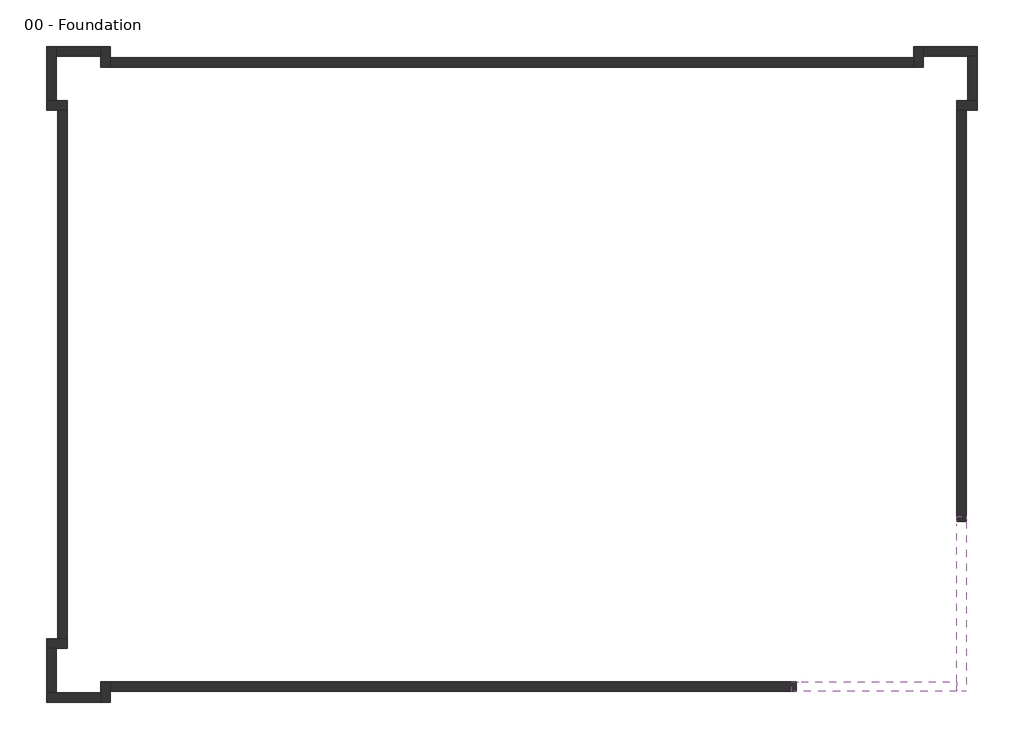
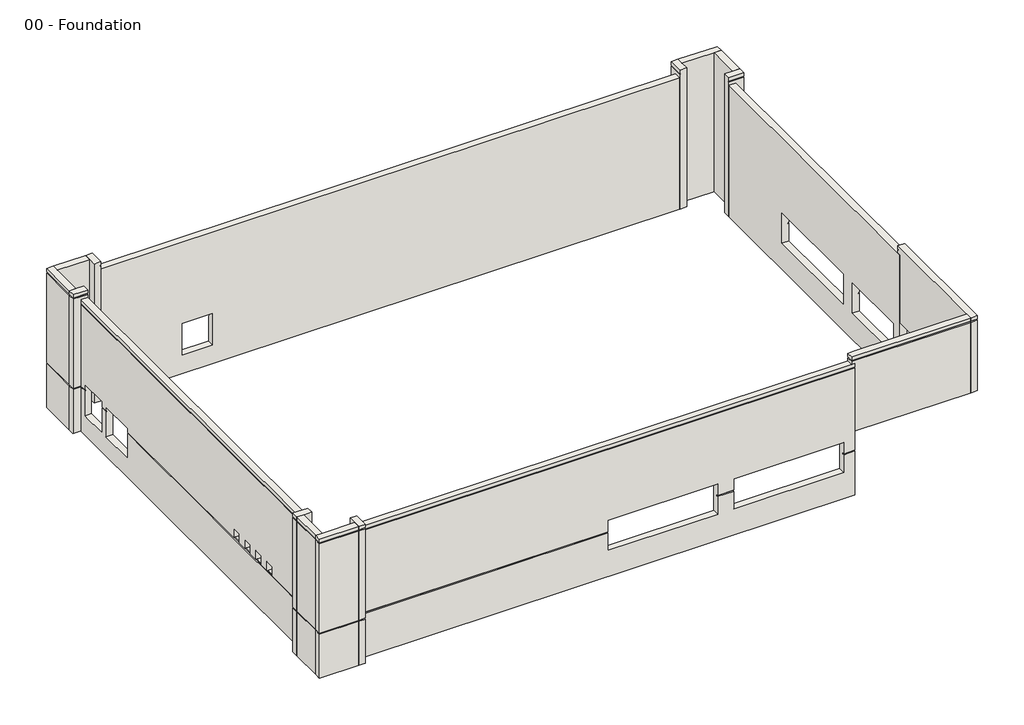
# One storey: 18 walls.
"""IFC4 building model written with IfcOpenShell, lengths in millimetres."""

from ifc_helpers import new_model, si_unit, frame, origin, place, context, project, spatial, polyline, outline, extrude, faceted_brep, element, save

model = new_model("IFC4")

# Units and contexts
model_context = context("Model", 3, world=origin())
ifc_project = project(units=[si_unit("LENGTHUNIT", "METRE", prefix="MILLI")], contexts=[model_context])

# Site, building, storey
site = spatial("IfcSite", under=ifc_project)
building = spatial("IfcBuilding", under=site)
storey = spatial("IfcBuildingStorey", under=building, Name="00 - Foundation", Elevation=-1250.0)

# Walls
placement = place(None, origin())
element("IfcWall", 1, ObjectType="Exterior - Render on Brick on Block @ Entry", at=placement, inside=storey, context=model_context, shape_type="Brep", body=[
    faceted_brep([(18351.5272279, -6696.4313057, 3000.0), (18351.5272279, -13977.9313057, 3000.0), (18351.5272279, -14406.9313057, 3000.0), (18351.5272279, -14406.9313057, 7700.0), (18351.5272279, -14331.9313057, 7700.0), (18351.5272279, -14331.9313057, 7775.0), (18351.5272279, -14406.9313057, 7775.0), (18351.5272279, -14406.9313057, 8000.0), (18351.5272279, -13977.9313057, 8000.0), (18351.5272279, -6910.9313057, 8000.0), (18351.5272279, -6481.9313057, 8000.0), (18351.5272279, -6481.9313057, 7775.0), (18351.5272279, -6556.9313057, 7775.0), (18351.5272279, -6556.9313057, 7700.0), (18351.5272279, -6481.9313057, 7700.0), (18351.5272279, -6481.9313057, 7500.0), (18351.5272279, -6696.4313057, 7500.0), (18780.5272279, -14406.9313057, 3000.0), (18780.5272279, -6696.4313057, 3000.0), (18780.5272279, -6696.4313057, 7200.0), (18780.5272279, -6696.4313057, 7275.0), (18780.5272279, -6696.4313057, 7500.0), (18780.5272279, -6481.9313057, 7500.0), (18780.5272279, -6481.9313057, 7700.0), (18780.5272279, -14406.9313057, 7700.0), (18780.5272279, -6481.9313057, 8000.0), (18780.5272279, -14406.9313057, 8000.0), (18780.5272279, -14406.9313057, 7775.0), (18780.5272279, -6481.9313057, 7775.0), (18705.5272279, -6556.9313057, 7700.0), (18705.5272279, -6556.9313057, 7775.0), (18705.5272279, -14331.9313057, 7775.0), (18705.5272279, -14331.9313057, 7700.0)], [[[0, 1, 2, 3, 4, 5, 6, 7, 8, 9, 10, 11, 12, 13, 14, 15, 16]], [[17, 18, 19, 20, 21, 22, 23, 24]], [[25, 26, 27, 28]], [[2, 1, 0, 18, 17]], [[10, 9, 8, 7, 26, 25]], [[29, 30, 31, 32]], [[2, 17, 24, 3]], [[26, 7, 6, 27]], [[31, 30, 12, 11, 28, 27, 6, 5]], [[29, 32, 4, 3, 24, 23, 14, 13]], [[30, 29, 13, 12]], [[32, 31, 5, 4]], [[18, 0, 16, 21, 20, 19]], [[22, 21, 16, 15]], [[10, 25, 28, 11]], [[22, 15, 14, 23]]]),
])
element("IfcWall", 2, ObjectType="Exterior - Render on Brick on Block @ Entry", at=placement, inside=storey, context=model_context, shape_type="Brep", body=[
    faceted_brep([(18351.5272279, -13977.9313057, 3000.0), (11070.0272279, -13977.9313057, 3000.0), (11070.0272279, -13977.9313057, 7500.0), (10855.5272279, -13977.9313057, 7500.0), (10855.5272279, -13977.9313057, 7700.0), (10930.5272279, -13977.9313057, 7700.0), (10930.5272279, -13977.9313057, 7775.0), (10855.5272279, -13977.9313057, 7775.0), (10855.5272279, -13977.9313057, 8000.0), (11284.5272279, -13977.9313057, 8000.0), (18351.5272279, -13977.9313057, 8000.0), (11070.0272279, -14406.9313057, 3000.0), (18351.5272279, -14406.9313057, 3000.0), (18351.5272279, -14406.9313057, 7700.0), (10855.5272279, -14406.9313057, 7700.0), (10855.5272279, -14406.9313057, 7500.0), (11070.0272279, -14406.9313057, 7500.0), (11070.0272279, -14406.9313057, 7275.0), (11070.0272279, -14406.9313057, 7200.0), (18351.5272279, -14406.9313057, 8000.0), (10855.5272279, -14406.9313057, 8000.0), (10855.5272279, -14406.9313057, 7775.0), (18351.5272279, -14406.9313057, 7775.0), (18351.5272279, -14331.9313057, 7700.0), (18351.5272279, -14331.9313057, 7775.0), (10930.5272279, -14331.9313057, 7775.0), (10930.5272279, -14331.9313057, 7700.0)], [[[0, 1, 2, 3, 4, 5, 6, 7, 8, 9, 10]], [[11, 12, 13, 14, 15, 16, 17, 18]], [[19, 20, 21, 22]], [[1, 0, 12, 11]], [[10, 9, 8, 20, 19]], [[23, 24, 25, 26]], [[0, 10, 19, 22, 24, 23, 13, 12]], [[22, 21, 7, 6, 25, 24]], [[14, 13, 23, 26, 5, 4]], [[1, 11, 18, 17, 16, 2]], [[3, 2, 16, 15]], [[3, 15, 14, 4]], [[20, 8, 7, 21]], [[26, 25, 6, 5]]]),
])
element("IfcWall", 3, ObjectType="Exterior - Render on Brick on Block", at=placement, inside=storey, context=model_context, shape_type="Brep", body=[
    faceted_brep([(11070.0272279, -13977.9313057, -1250.0), (-20031.4727721, -13977.9313057, -1250.0), (-20031.4727721, -13977.9313057, 7500.0), (10855.5272279, -13977.9313057, 7500.0), (11070.0272279, -13977.9313057, 7500.0), (11070.0272279, -13977.9313057, 3000.0), (-4494.4727721, -13977.9313057, 2500.0), (-4494.4727721, -13977.9313057, 500.0), (2430.5272279, -13977.9313057, 500.0), (2430.5272279, -13977.9313057, 2500.0), (10355.5272279, -13977.9313057, 500.0), (10355.5272279, -13977.9313057, 2500.0), (3430.5272279, -13977.9313057, 2500.0), (3430.5272279, -13977.9313057, 500.0), (11070.0272279, -14406.9313057, 7500.0), (-20031.4727721, -14406.9313057, 7500.0), (-20031.4727721, -14406.9313057, 7275.0), (11070.0272279, -14406.9313057, 7275.0), (-20031.4727721, -14406.9313057, -1250.0), (11070.0272279, -14406.9313057, -1250.0), (11070.0272279, -14406.9313057, 1675.0), (10355.5272279, -14406.9313057, 1675.0), (10355.5272279, -14406.9313057, 500.0), (3430.5272279, -14406.9313057, 500.0), (3430.5272279, -14406.9313057, 1675.0), (2430.5272279, -14406.9313057, 1675.0), (2430.5272279, -14406.9313057, 500.0), (-4494.4727721, -14406.9313057, 500.0), (-4494.4727721, -14406.9313057, 1675.0), (-20031.4727721, -14406.9313057, 1675.0), (-20031.4727721, -14406.9313057, 1750.0), (-4494.4727721, -14406.9313057, 1750.0), (-4494.4727721, -14406.9313057, 2500.0), (2430.5272279, -14406.9313057, 2500.0), (2430.5272279, -14406.9313057, 1750.0), (3430.5272279, -14406.9313057, 1750.0), (3430.5272279, -14406.9313057, 2500.0), (10355.5272279, -14406.9313057, 2500.0), (10355.5272279, -14406.9313057, 1750.0), (11070.0272279, -14406.9313057, 1750.0), (11070.0272279, -14406.9313057, 7200.0), (-20031.4727721, -14406.9313057, 7200.0), (11070.0272279, -14331.9313057, 7275.0), (11070.0272279, -14331.9313057, 7200.0), (11070.0272279, -14331.9313057, 1750.0), (11070.0272279, -14331.9313057, 1675.0), (11070.0272279, -14381.9313057, -1250.0), (-20031.4727721, -14381.9313057, -1250.0), (-20031.4727721, -14331.9313057, 1750.0), (-4494.4727721, -14331.9313057, 1750.0), (-4494.4727721, -14331.9313057, 1675.0), (-20031.4727721, -14331.9313057, 1675.0), (-20031.4727721, -14331.9313057, 7275.0), (-20031.4727721, -14331.9313057, 7200.0), (2430.5272279, -14331.9313057, 1675.0), (2430.5272279, -14331.9313057, 1750.0), (3430.5272279, -14331.9313057, 1750.0), (3430.5272279, -14331.9313057, 1675.0), (10355.5272279, -14331.9313057, 1675.0), (10355.5272279, -14331.9313057, 1750.0)], [[[0, 1, 2, 3, 4, 5], [6, 7, 8, 9], [10, 11, 12, 13]], [[14, 15, 16, 17]], [[18, 19, 20, 21, 22, 23, 24, 25, 26, 27, 28, 29]], [[30, 31, 32, 33, 34, 35, 36, 37, 38, 39, 40, 41]], [[4, 3, 2, 15, 14]], [[0, 5, 4, 14, 17, 42, 43, 40, 39, 44, 45, 20, 19, 46]], [[1, 0, 46, 47]], [[46, 19, 18, 47]], [[31, 30, 48, 49]], [[29, 28, 50, 51]], [[49, 48, 51, 50]], [[52, 42, 17, 16]], [[43, 53, 41, 40]], [[42, 52, 53, 43]], [[2, 1, 47, 18, 29, 51, 48, 30, 41, 53, 52, 16, 15]], [[27, 7, 6, 32, 31, 49, 50, 28]], [[32, 6, 9, 33]], [[33, 9, 8, 26, 25, 54, 55, 34]], [[7, 27, 26, 8]], [[55, 56, 35, 34]], [[57, 54, 25, 24]], [[56, 55, 54, 57]], [[10, 22, 21, 58, 59, 38, 37, 11]], [[11, 37, 36, 12]], [[12, 36, 35, 56, 57, 24, 23, 13]], [[22, 10, 13, 23]], [[59, 44, 39, 38]], [[45, 58, 21, 20]], [[44, 59, 58, 45]]]),
])
element("IfcWall", 4, ObjectType="Exterior - Render on Brick on Block", at=placement, inside=storey, context=model_context, shape_type="Brep", body=[
    faceted_brep([(-20460.4727721, -13977.9313057, -1250.0), (-20460.4727721, -14477.7313057, -1250.0), (-20460.4727721, -14906.7313057, -1250.0), (-20460.4727721, -14906.7313057, 1675.0), (-20460.4727721, -14831.7313057, 1675.0), (-20460.4727721, -14831.7313057, 1750.0), (-20460.4727721, -14906.7313057, 1750.0), (-20460.4727721, -14906.7313057, 7700.0), (-20460.4727721, -14831.7313057, 7700.0), (-20460.4727721, -14831.7313057, 7775.0), (-20460.4727721, -14906.7313057, 7775.0), (-20460.4727721, -14906.7313057, 8000.0), (-20460.4727721, -14477.7313057, 8000.0), (-20460.4727721, -13977.9313057, 8000.0), (-20031.4727721, -13977.9313057, 8000.0), (-20031.4727721, -14906.7313057, 8000.0), (-20031.4727721, -14906.7313057, 7775.0), (-20031.4727721, -13977.9313057, 7775.0), (-20031.4727721, -14906.7313057, -1250.0), (-20031.4727721, -14406.9313057, -1250.0), (-20031.4727721, -13977.9313057, -1250.0), (-20031.4727721, -13977.9313057, 7500.0), (-20031.4727721, -13977.9313057, 7700.0), (-20031.4727721, -14906.7313057, 7700.0), (-20031.4727721, -14906.7313057, 1750.0), (-20031.4727721, -14406.9313057, 1750.0), (-20031.4727721, -14331.9313057, 1750.0), (-20031.4727721, -14331.9313057, 1675.0), (-20031.4727721, -14406.9313057, 1675.0), (-20031.4727721, -14906.7313057, 1675.0), (-20056.4727721, -13977.9313057, -1250.0), (-20056.4727721, -14906.7313057, -1250.0), (-20106.4727721, -14331.9313057, 1675.0), (-20106.4727721, -14331.9313057, 1750.0), (-20106.4727721, -14831.7313057, 1750.0), (-20106.4727721, -14831.7313057, 1675.0), (-20106.4727721, -14831.7313057, 7775.0), (-20106.4727721, -13977.9313057, 7775.0), (-20106.4727721, -13977.9313057, 7700.0), (-20106.4727721, -14831.7313057, 7700.0)], [[[0, 1, 2, 3, 4, 5, 6, 7, 8, 9, 10, 11, 12, 13]], [[14, 15, 16, 17]], [[18, 19, 20, 21, 22, 23, 24, 25, 26, 27, 28, 29]], [[13, 12, 11, 15, 14]], [[2, 1, 0, 30, 31]], [[32, 33, 34, 35]], [[36, 37, 17, 16, 10, 9]], [[38, 39, 8, 7, 23, 22]], [[37, 36, 39, 38]], [[0, 13, 14, 17, 37, 38, 22, 21, 20, 30]], [[20, 19, 18, 31, 30]], [[34, 33, 26, 25, 24, 6, 5]], [[32, 35, 4, 3, 29, 28, 27]], [[33, 32, 27, 26]], [[15, 11, 10, 16]], [[2, 31, 18, 29, 3]], [[6, 24, 23, 7]], [[35, 34, 5, 4]], [[39, 36, 9, 8]]]),
])
element("IfcWall", 5, ObjectType="Exterior - Render on Brick on Block", at=placement, inside=storey, context=model_context, shape_type="Brep", body=[
    faceted_brep([(-20460.4727721, -14477.7313057, -1250.0), (-22490.4727721, -14477.7313057, -1250.0), (-22919.4727721, -14477.7313057, -1250.0), (-22919.4727721, -14477.7313057, 1675.0), (-22844.4727721, -14477.7313057, 1675.0), (-22844.4727721, -14477.7313057, 1750.0), (-22919.4727721, -14477.7313057, 1750.0), (-22919.4727721, -14477.7313057, 7700.0), (-22844.4727721, -14477.7313057, 7700.0), (-22844.4727721, -14477.7313057, 7775.0), (-22919.4727721, -14477.7313057, 7775.0), (-22919.4727721, -14477.7313057, 8000.0), (-22490.4727721, -14477.7313057, 8000.0), (-20460.4727721, -14477.7313057, 8000.0), (-20460.4727721, -14906.7313057, 8000.0), (-22919.4727721, -14906.7313057, 8000.0), (-22919.4727721, -14906.7313057, 7775.0), (-20460.4727721, -14906.7313057, 7775.0), (-22919.4727721, -14906.7313057, -1250.0), (-20460.4727721, -14906.7313057, -1250.0), (-20460.4727721, -14906.7313057, 1675.0), (-22919.4727721, -14906.7313057, 1675.0), (-22919.4727721, -14906.7313057, 1750.0), (-20460.4727721, -14906.7313057, 1750.0), (-20460.4727721, -14906.7313057, 7700.0), (-22919.4727721, -14906.7313057, 7700.0), (-20460.4727721, -14881.7313057, -1250.0), (-22919.4727721, -14881.7313057, -1250.0), (-22844.4727721, -14831.7313057, 1675.0), (-20460.4727721, -14831.7313057, 1675.0), (-20460.4727721, -14831.7313057, 1750.0), (-22844.4727721, -14831.7313057, 1750.0), (-22844.4727721, -14831.7313057, 7775.0), (-22844.4727721, -14831.7313057, 7700.0), (-20460.4727721, -14831.7313057, 7700.0), (-20460.4727721, -14831.7313057, 7775.0)], [[[0, 1, 2, 3, 4, 5, 6, 7, 8, 9, 10, 11, 12, 13]], [[14, 15, 16, 17]], [[18, 19, 20, 21]], [[22, 23, 24, 25]], [[13, 12, 11, 15, 14]], [[2, 1, 0, 26, 27]], [[28, 29, 30, 31]], [[32, 33, 34, 35]], [[0, 13, 14, 17, 35, 34, 24, 23, 30, 29, 20, 19, 26]], [[19, 18, 27, 26]], [[31, 30, 23, 22, 6, 5]], [[29, 28, 4, 3, 21, 20]], [[9, 32, 35, 17, 16, 10]], [[34, 33, 8, 7, 25, 24]], [[15, 11, 10, 16]], [[2, 27, 18, 21, 3]], [[6, 22, 25, 7]], [[28, 31, 5, 4]], [[33, 32, 9, 8]]]),
])
element("IfcWall", 6, ObjectType="Exterior - Render on Brick on Block", at=placement, inside=storey, context=model_context, shape_type="SweptSolid", body=[
    extrude(outline(polyline([(-1250.0, -22490.4727721), (8000.0, -22490.4727721), (8000.0, -22919.4727721), (7775.0, -22919.4727721), (7775.0, -22844.4727721), (7700.0, -22844.4727721), (7700.0, -22919.4727721), (1750.0, -22919.4727721), (1750.0, -22844.4727721), (1675.0, -22844.4727721), (1675.0, -22919.4727721), (-1250.0, -22919.4727721), (-1250.0, -22894.4727721), (-1250.0, -22490.4727721)])), frame((0.0, -14477.7313057, 0.0), z_axis=(0.0, 1.0, 0.0), x_axis=(0.0, 0.0, 1.0)), (0.0, 0.0, 1.0), 2030.0),
])
element("IfcWall", 7, ObjectType="Exterior - Render on Brick on Block", at=placement, inside=storey, context=model_context, shape_type="Brep", body=[
    faceted_brep([(-22919.4727721, -12447.7313057, -1250.0), (-22490.4727721, -12447.7313057, -1250.0), (-21990.4727721, -12447.7313057, -1250.0), (-21990.4727721, -12447.7313057, 8000.0), (-22490.4727721, -12447.7313057, 8000.0), (-22919.4727721, -12447.7313057, 8000.0), (-22919.4727721, -12447.7313057, 7775.0), (-22844.4727721, -12447.7313057, 7775.0), (-22844.4727721, -12447.7313057, 7700.0), (-22919.4727721, -12447.7313057, 7700.0), (-22919.4727721, -12447.7313057, 1750.0), (-22844.4727721, -12447.7313057, 1750.0), (-22844.4727721, -12447.7313057, 1675.0), (-22919.4727721, -12447.7313057, 1675.0), (-22919.4727721, -12018.7313057, 8000.0), (-21990.4727721, -12018.7313057, 8000.0), (-21990.4727721, -12018.7313057, 7775.0), (-22919.4727721, -12018.7313057, 7775.0), (-21990.4727721, -12018.7313057, -1250.0), (-22419.4727721, -12018.7313057, -1250.0), (-22919.4727721, -12018.7313057, -1250.0), (-22919.4727721, -12018.7313057, 1675.0), (-22419.4727721, -12018.7313057, 1675.0), (-22344.4727721, -12018.7313057, 1675.0), (-22344.4727721, -12018.7313057, 1750.0), (-22419.4727721, -12018.7313057, 1750.0), (-22919.4727721, -12018.7313057, 1750.0), (-22919.4727721, -12018.7313057, 7700.0), (-21990.4727721, -12018.7313057, 7700.0), (-21990.4727721, -12018.7313057, 7500.0), (-22919.4727721, -12043.7313057, -1250.0), (-21990.4727721, -12043.7313057, -1250.0), (-22844.4727721, -12093.7313057, 1675.0), (-22844.4727721, -12093.7313057, 1750.0), (-22344.4727721, -12093.7313057, 1750.0), (-22344.4727721, -12093.7313057, 1675.0), (-22844.4727721, -12093.7313057, 7775.0), (-21990.4727721, -12093.7313057, 7775.0), (-21990.4727721, -12093.7313057, 7700.0), (-22844.4727721, -12093.7313057, 7700.0)], [[[0, 1, 2, 3, 4, 5, 6, 7, 8, 9, 10, 11, 12, 13]], [[14, 15, 16, 17]], [[18, 19, 20, 21, 22, 23, 24, 25, 26, 27, 28, 29]], [[5, 4, 3, 15, 14]], [[2, 1, 0, 30, 31]], [[32, 33, 34, 35]], [[36, 37, 38, 39]], [[5, 14, 17, 6]], [[30, 0, 13, 21, 20]], [[26, 10, 9, 27]], [[20, 19, 18, 31, 30]], [[34, 33, 11, 10, 26, 25, 24]], [[32, 35, 23, 22, 21, 13, 12]], [[33, 32, 12, 11]], [[37, 36, 7, 6, 17, 16]], [[39, 38, 28, 27, 9, 8]], [[36, 39, 8, 7]], [[3, 2, 31, 18, 29, 28, 38, 37, 16, 15]], [[35, 34, 24, 23]]]),
])
element("IfcWall", 8, ObjectType="Exterior - Render on Brick on Block", at=placement, inside=storey, context=model_context, shape_type="Brep", body=[
    faceted_brep([(-21990.4727721, -12018.7313057, -1250.0), (-21990.4727721, 11955.0686943, -1250.0), (-21990.4727721, 11955.0686943, 7500.0), (-21990.4727721, -12018.7313057, 7500.0), (-21990.4727721, 9255.0686943, 2000.0), (-21990.4727721, 9255.0686943, 0.0), (-21990.4727721, 6855.0686943, 0.0), (-21990.4727721, 6855.0686943, 2000.0), (-21990.4727721, 9655.0686943, 2100.0), (-21990.4727721, 11555.0686943, 2100.0), (-21990.4727721, 11555.0686943, 0.0), (-21990.4727721, 9655.0686943, 0.0), (-21990.4727721, -5291.1813057, 1750.0), (-21990.4727721, -5291.1813057, 2360.0), (-21990.4727721, -4681.1813057, 2360.0), (-21990.4727721, -4681.1813057, 1750.0), (-21990.4727721, -6501.1813057, 1750.0), (-21990.4727721, -6501.1813057, 2360.0), (-21990.4727721, -5891.1813057, 2360.0), (-21990.4727721, -5891.1813057, 1750.0), (-21990.4727721, -7711.1813057, 1750.0), (-21990.4727721, -7711.1813057, 2360.0), (-21990.4727721, -7101.1813057, 2360.0), (-21990.4727721, -7101.1813057, 1750.0), (-21990.4727721, -8921.1813057, 1750.0), (-21990.4727721, -8921.1813057, 2360.0), (-21990.4727721, -8311.1813057, 2360.0), (-21990.4727721, -8311.1813057, 1750.0), (-22419.4727721, -12018.7313057, 7500.0), (-22419.4727721, 11955.0686943, 7500.0), (-22419.4727721, 11955.0686943, 7275.0), (-22419.4727721, -12018.7313057, 7275.0), (-22419.4727721, 11955.0686943, -1250.0), (-22419.4727721, -12018.7313057, -1250.0), (-22419.4727721, -12018.7313057, 1675.0), (-22419.4727721, 6855.0686943, 1675.0), (-22419.4727721, 6855.0686943, 0.0), (-22419.4727721, 9255.0686943, 0.0), (-22419.4727721, 9255.0686943, 1675.0), (-22419.4727721, 9655.0686943, 1675.0), (-22419.4727721, 9655.0686943, 0.0), (-22419.4727721, 11555.0686943, 0.0), (-22419.4727721, 11555.0686943, 1675.0), (-22419.4727721, 11955.0686943, 1675.0), (-22419.4727721, 11955.0686943, 1750.0), (-22419.4727721, 11555.0686943, 1750.0), (-22419.4727721, 11555.0686943, 2100.0), (-22419.4727721, 9655.0686943, 2100.0), (-22419.4727721, 9655.0686943, 1750.0), (-22419.4727721, 9255.0686943, 1750.0), (-22419.4727721, 9255.0686943, 2000.0), (-22419.4727721, 6855.0686943, 2000.0), (-22419.4727721, 6855.0686943, 1750.0), (-22419.4727721, -4681.1813057, 1750.0), (-22419.4727721, -4681.1813057, 2360.0), (-22419.4727721, -5291.1813057, 2360.0), (-22419.4727721, -5291.1813057, 1750.0), (-22419.4727721, -5891.1813057, 1750.0), (-22419.4727721, -5891.1813057, 2360.0), (-22419.4727721, -6501.1813057, 2360.0), (-22419.4727721, -6501.1813057, 1750.0), (-22419.4727721, -7101.1813057, 1750.0), (-22419.4727721, -7101.1813057, 2360.0), (-22419.4727721, -7711.1813057, 2360.0), (-22419.4727721, -7711.1813057, 1750.0), (-22419.4727721, -8311.1813057, 1750.0), (-22419.4727721, -8311.1813057, 2360.0), (-22419.4727721, -8921.1813057, 2360.0), (-22419.4727721, -8921.1813057, 1750.0), (-22419.4727721, -12018.7313057, 1750.0), (-22419.4727721, -12018.7313057, 7200.0), (-22419.4727721, 11955.0686943, 7200.0), (-22394.4727721, -12018.7313057, -1250.0), (-22394.4727721, 11955.0686943, -1250.0), (-22344.4727721, 11955.0686943, 1750.0), (-22344.4727721, 11555.0686943, 1750.0), (-22344.4727721, 11555.0686943, 1675.0), (-22344.4727721, 11955.0686943, 1675.0), (-22344.4727721, 11955.0686943, 7275.0), (-22344.4727721, -12018.7313057, 7275.0), (-22344.4727721, -12018.7313057, 7200.0), (-22344.4727721, 11955.0686943, 7200.0), (-22344.4727721, -12018.7313057, 1750.0), (-22344.4727721, -12018.7313057, 1675.0), (-22344.4727721, -8921.1813057, 1750.0), (-22344.4727721, 6855.0686943, 1750.0), (-22344.4727721, -4681.1813057, 1750.0), (-22344.4727721, -5291.1813057, 1750.0), (-22344.4727721, -5891.1813057, 1750.0), (-22344.4727721, -6501.1813057, 1750.0), (-22344.4727721, -7101.1813057, 1750.0), (-22344.4727721, -7711.1813057, 1750.0), (-22344.4727721, -8311.1813057, 1750.0), (-22344.4727721, 6855.0686943, 1675.0), (-22344.4727721, 9255.0686943, 1750.0), (-22344.4727721, 9255.0686943, 1675.0), (-22344.4727721, 9655.0686943, 1750.0), (-22344.4727721, 9655.0686943, 1675.0)], [[[0, 1, 2, 3], [4, 5, 6, 7], [8, 9, 10, 11], [12, 13, 14, 15], [16, 17, 18, 19], [20, 21, 22, 23], [24, 25, 26, 27]], [[28, 29, 30, 31]], [[32, 33, 34, 35, 36, 37, 38, 39, 40, 41, 42, 43]], [[44, 45, 46, 47, 48, 49, 50, 51, 52, 53, 54, 55, 56, 57, 58, 59, 60, 61, 62, 63, 64, 65, 66, 67, 68, 69, 70, 71]], [[3, 2, 29, 28]], [[1, 0, 72, 73]], [[45, 44, 74, 75]], [[43, 42, 76, 77]], [[77, 76, 75, 74]], [[78, 79, 31, 30]], [[80, 81, 71, 70]], [[79, 78, 81, 80]], [[0, 3, 28, 31, 79, 80, 70, 69, 82, 83, 34, 33, 72]], [[33, 32, 73, 72]], [[69, 68, 84, 82]], [[52, 85, 86, 53]], [[57, 56, 87, 88]], [[61, 60, 89, 90]], [[65, 64, 91, 92]], [[35, 34, 83, 93]], [[2, 1, 73, 32, 43, 77, 74, 44, 71, 81, 78, 30, 29]], [[5, 4, 50, 49, 94, 95, 38, 37]], [[51, 50, 4, 7]], [[7, 6, 36, 35, 93, 85, 52, 51]], [[37, 36, 6, 5]], [[94, 96, 97, 95]], [[96, 94, 49, 48]], [[95, 97, 39, 38]], [[8, 47, 46, 9]], [[47, 8, 11, 40, 39, 97, 96, 48]], [[40, 11, 10, 41]], [[9, 46, 45, 75, 76, 42, 41, 10]], [[93, 83, 82, 84, 92, 91, 90, 89, 88, 87, 86, 85]], [[13, 12, 87, 56, 55]], [[14, 13, 55, 54]], [[15, 14, 54, 53, 86]], [[12, 15, 86, 87]], [[17, 16, 89, 60, 59]], [[18, 17, 59, 58]], [[19, 18, 58, 57, 88]], [[16, 19, 88, 89]], [[21, 20, 91, 64, 63]], [[22, 21, 63, 62]], [[23, 22, 62, 61, 90]], [[20, 23, 90, 91]], [[25, 24, 84, 68, 67]], [[26, 25, 67, 66]], [[27, 26, 66, 65, 92]], [[24, 27, 92, 84]]]),
])
element("IfcWall", 9, ObjectType="Exterior - Render on Brick on Block", at=placement, inside=storey, context=model_context, shape_type="Brep", body=[
    faceted_brep([(-21990.4727721, 12384.0686943, -1250.0), (-22490.4727721, 12384.0686943, -1250.0), (-22919.4727721, 12384.0686943, -1250.0), (-22919.4727721, 12384.0686943, 1675.0), (-22844.4727721, 12384.0686943, 1675.0), (-22844.4727721, 12384.0686943, 1750.0), (-22919.4727721, 12384.0686943, 1750.0), (-22919.4727721, 12384.0686943, 7700.0), (-22844.4727721, 12384.0686943, 7700.0), (-22844.4727721, 12384.0686943, 7775.0), (-22919.4727721, 12384.0686943, 7775.0), (-22919.4727721, 12384.0686943, 8000.0), (-22490.4727721, 12384.0686943, 8000.0), (-21990.4727721, 12384.0686943, 8000.0), (-21990.4727721, 11955.0686943, 8000.0), (-22919.4727721, 11955.0686943, 8000.0), (-22919.4727721, 11955.0686943, 7775.0), (-21990.4727721, 11955.0686943, 7775.0), (-22919.4727721, 11955.0686943, -1250.0), (-22419.4727721, 11955.0686943, -1250.0), (-21990.4727721, 11955.0686943, -1250.0), (-21990.4727721, 11955.0686943, 7500.0), (-21990.4727721, 11955.0686943, 7700.0), (-22919.4727721, 11955.0686943, 7700.0), (-22919.4727721, 11955.0686943, 1750.0), (-22419.4727721, 11955.0686943, 1750.0), (-22344.4727721, 11955.0686943, 1750.0), (-22344.4727721, 11955.0686943, 1675.0), (-22419.4727721, 11955.0686943, 1675.0), (-22919.4727721, 11955.0686943, 1675.0), (-21990.4727721, 11980.0686943, -1250.0), (-22919.4727721, 11980.0686943, -1250.0), (-22344.4727721, 12030.0686943, 1675.0), (-22344.4727721, 12030.0686943, 1750.0), (-22844.4727721, 12030.0686943, 1750.0), (-22844.4727721, 12030.0686943, 1675.0), (-22844.4727721, 12030.0686943, 7775.0), (-21990.4727721, 12030.0686943, 7775.0), (-21990.4727721, 12030.0686943, 7700.0), (-22844.4727721, 12030.0686943, 7700.0)], [[[0, 1, 2, 3, 4, 5, 6, 7, 8, 9, 10, 11, 12, 13]], [[14, 15, 16, 17]], [[18, 19, 20, 21, 22, 23, 24, 25, 26, 27, 28, 29]], [[13, 12, 11, 15, 14]], [[2, 1, 0, 30, 31]], [[32, 33, 34, 35]], [[36, 37, 17, 16, 10, 9]], [[38, 39, 8, 7, 23, 22]], [[37, 36, 39, 38]], [[0, 13, 14, 17, 37, 38, 22, 21, 20, 30]], [[20, 19, 18, 31, 30]], [[34, 33, 26, 25, 24, 6, 5]], [[32, 35, 4, 3, 29, 28, 27]], [[33, 32, 27, 26]], [[15, 11, 10, 16]], [[2, 31, 18, 29, 3]], [[6, 24, 23, 7]], [[35, 34, 5, 4]], [[39, 36, 9, 8]]]),
])
element("IfcWall", 10, ObjectType="Exterior - Render on Brick on Block", at=placement, inside=storey, context=model_context, shape_type="Brep", body=[
    faceted_brep([(-22490.4727721, 12384.0686943, -1250.0), (-22490.4727721, 14414.0686943, -1250.0), (-22490.4727721, 14843.0686943, -1250.0), (-22490.4727721, 14843.0686943, 1675.0), (-22490.4727721, 14768.0686943, 1675.0), (-22490.4727721, 14768.0686943, 1750.0), (-22490.4727721, 14843.0686943, 1750.0), (-22490.4727721, 14843.0686943, 7700.0), (-22490.4727721, 14768.0686943, 7700.0), (-22490.4727721, 14768.0686943, 7775.0), (-22490.4727721, 14843.0686943, 7775.0), (-22490.4727721, 14843.0686943, 8000.0), (-22490.4727721, 14414.0686943, 8000.0), (-22490.4727721, 12384.0686943, 8000.0), (-22919.4727721, 12384.0686943, 8000.0), (-22919.4727721, 14843.0686943, 8000.0), (-22919.4727721, 14843.0686943, 7775.0), (-22919.4727721, 12384.0686943, 7775.0), (-22919.4727721, 14843.0686943, -1250.0), (-22919.4727721, 12384.0686943, -1250.0), (-22919.4727721, 12384.0686943, 1675.0), (-22919.4727721, 14843.0686943, 1675.0), (-22919.4727721, 14843.0686943, 1750.0), (-22919.4727721, 12384.0686943, 1750.0), (-22919.4727721, 12384.0686943, 7700.0), (-22919.4727721, 14843.0686943, 7700.0), (-22894.4727721, 12384.0686943, -1250.0), (-22894.4727721, 14843.0686943, -1250.0), (-22844.4727721, 14768.0686943, 1675.0), (-22844.4727721, 12384.0686943, 1675.0), (-22844.4727721, 12384.0686943, 1750.0), (-22844.4727721, 14768.0686943, 1750.0), (-22844.4727721, 14768.0686943, 7775.0), (-22844.4727721, 14768.0686943, 7700.0), (-22844.4727721, 12384.0686943, 7700.0), (-22844.4727721, 12384.0686943, 7775.0)], [[[0, 1, 2, 3, 4, 5, 6, 7, 8, 9, 10, 11, 12, 13]], [[14, 15, 16, 17]], [[18, 19, 20, 21]], [[22, 23, 24, 25]], [[13, 12, 11, 15, 14]], [[2, 1, 0, 26, 27]], [[28, 29, 30, 31]], [[32, 33, 34, 35]], [[0, 13, 14, 17, 35, 34, 24, 23, 30, 29, 20, 19, 26]], [[19, 18, 27, 26]], [[31, 30, 23, 22, 6, 5]], [[29, 28, 4, 3, 21, 20]], [[9, 32, 35, 17, 16, 10]], [[34, 33, 8, 7, 25, 24]], [[15, 11, 10, 16]], [[2, 27, 18, 21, 3]], [[6, 22, 25, 7]], [[28, 31, 5, 4]], [[33, 32, 9, 8]]]),
])
element("IfcWall", 11, ObjectType="Exterior - Render on Brick on Block", at=placement, inside=storey, context=model_context, shape_type="SweptSolid", body=[
    extrude(outline(polyline([(14414.0686943, -1250.0), (14414.0686943, 8000.0), (14843.0686943, 8000.0), (14843.0686943, 7775.0), (14768.0686943, 7775.0), (14768.0686943, 7700.0), (14843.0686943, 7700.0), (14843.0686943, 1750.0), (14768.0686943, 1750.0), (14768.0686943, 1675.0), (14843.0686943, 1675.0), (14843.0686943, -1250.0), (14818.0686943, -1250.0), (14414.0686943, -1250.0)])), frame((-22490.4727721, 0.0, 0.0), z_axis=(1.0, 0.0, 0.0), x_axis=(0.0, 1.0, 0.0)), (0.0, 0.0, 1.0), 2030.0),
])
element("IfcWall", 12, ObjectType="Exterior - Render on Brick on Block", at=placement, inside=storey, context=model_context, shape_type="Brep", body=[
    faceted_brep([(-20460.4727721, 14843.0686943, -1250.0), (-20460.4727721, 14414.0686943, -1250.0), (-20460.4727721, 13914.0686943, -1250.0), (-20460.4727721, 13914.0686943, 8000.0), (-20460.4727721, 14414.0686943, 8000.0), (-20460.4727721, 14843.0686943, 8000.0), (-20460.4727721, 14843.0686943, 7775.0), (-20460.4727721, 14768.0686943, 7775.0), (-20460.4727721, 14768.0686943, 7700.0), (-20460.4727721, 14843.0686943, 7700.0), (-20460.4727721, 14843.0686943, 1750.0), (-20460.4727721, 14768.0686943, 1750.0), (-20460.4727721, 14768.0686943, 1675.0), (-20460.4727721, 14843.0686943, 1675.0), (-20031.4727721, 14843.0686943, 8000.0), (-20031.4727721, 13914.0686943, 8000.0), (-20031.4727721, 13914.0686943, 7775.0), (-20031.4727721, 14843.0686943, 7775.0), (-20031.4727721, 13914.0686943, -1250.0), (-20031.4727721, 14343.0686943, -1250.0), (-20031.4727721, 14843.0686943, -1250.0), (-20031.4727721, 14843.0686943, 1675.0), (-20031.4727721, 14343.0686943, 1675.0), (-20031.4727721, 14268.0686943, 1675.0), (-20031.4727721, 14268.0686943, 1750.0), (-20031.4727721, 14343.0686943, 1750.0), (-20031.4727721, 14843.0686943, 1750.0), (-20031.4727721, 14843.0686943, 7700.0), (-20031.4727721, 13914.0686943, 7700.0), (-20031.4727721, 13914.0686943, 7500.0), (-20056.4727721, 14843.0686943, -1250.0), (-20056.4727721, 13914.0686943, -1250.0), (-20106.4727721, 14768.0686943, 1675.0), (-20106.4727721, 14768.0686943, 1750.0), (-20106.4727721, 14268.0686943, 1750.0), (-20106.4727721, 14268.0686943, 1675.0), (-20106.4727721, 14768.0686943, 7775.0), (-20106.4727721, 13914.0686943, 7775.0), (-20106.4727721, 13914.0686943, 7700.0), (-20106.4727721, 14768.0686943, 7700.0)], [[[0, 1, 2, 3, 4, 5, 6, 7, 8, 9, 10, 11, 12, 13]], [[14, 15, 16, 17]], [[18, 19, 20, 21, 22, 23, 24, 25, 26, 27, 28, 29]], [[5, 4, 3, 15, 14]], [[2, 1, 0, 30, 31]], [[32, 33, 34, 35]], [[36, 37, 38, 39]], [[5, 14, 17, 6]], [[30, 0, 13, 21, 20]], [[26, 10, 9, 27]], [[20, 19, 18, 31, 30]], [[34, 33, 11, 10, 26, 25, 24]], [[32, 35, 23, 22, 21, 13, 12]], [[33, 32, 12, 11]], [[37, 36, 7, 6, 17, 16]], [[39, 38, 28, 27, 9, 8]], [[36, 39, 8, 7]], [[3, 2, 31, 18, 29, 28, 38, 37, 16, 15]], [[35, 34, 24, 23]]]),
])
element("IfcWall", 13, ObjectType="Exterior - Render on Brick on Block", at=placement, inside=storey, context=model_context, shape_type="Brep", body=[
    faceted_brep([(-20031.4727721, 13914.0686943, -1250.0), (16392.5272279, 13914.0686943, -1250.0), (16392.5272279, 13914.0686943, 7500.0), (-20031.4727721, 13914.0686943, 7500.0), (-14912.4227721, 13914.0686943, 0.0), (-14912.4227721, 13914.0686943, 2100.0), (-13012.4227721, 13914.0686943, 2100.0), (-13012.4227721, 13914.0686943, 0.0), (-20031.4727721, 14343.0686943, 7500.0), (16392.5272279, 14343.0686943, 7500.0), (16392.5272279, 14343.0686943, 7275.0), (-20031.4727721, 14343.0686943, 7275.0), (16392.5272279, 14343.0686943, -1250.0), (-20031.4727721, 14343.0686943, -1250.0), (-20031.4727721, 14343.0686943, 1675.0), (-14912.4227721, 14343.0686943, 1675.0), (-14912.4227721, 14343.0686943, 0.0), (-13012.4227721, 14343.0686943, 0.0), (-13012.4227721, 14343.0686943, 1675.0), (16392.5272279, 14343.0686943, 1675.0), (16392.5272279, 14343.0686943, 1750.0), (-13012.4227721, 14343.0686943, 1750.0), (-13012.4227721, 14343.0686943, 2100.0), (-14912.4227721, 14343.0686943, 2100.0), (-14912.4227721, 14343.0686943, 1750.0), (-20031.4727721, 14343.0686943, 1750.0), (-20031.4727721, 14343.0686943, 7200.0), (16392.5272279, 14343.0686943, 7200.0), (-20031.4727721, 14318.0686943, -1250.0), (16392.5272279, 14318.0686943, -1250.0), (16392.5272279, 14268.0686943, 1750.0), (-13012.4227721, 14268.0686943, 1750.0), (-13012.4227721, 14268.0686943, 1675.0), (16392.5272279, 14268.0686943, 1675.0), (16392.5272279, 14268.0686943, 7275.0), (-20031.4727721, 14268.0686943, 7275.0), (-20031.4727721, 14268.0686943, 7200.0), (16392.5272279, 14268.0686943, 7200.0), (-20031.4727721, 14268.0686943, 1750.0), (-20031.4727721, 14268.0686943, 1675.0), (-14912.4227721, 14268.0686943, 1750.0), (-14912.4227721, 14268.0686943, 1675.0)], [[[0, 1, 2, 3], [4, 5, 6, 7]], [[8, 9, 10, 11]], [[12, 13, 14, 15, 16, 17, 18, 19]], [[20, 21, 22, 23, 24, 25, 26, 27]], [[3, 2, 9, 8]], [[1, 0, 28, 29]], [[21, 20, 30, 31]], [[19, 18, 32, 33]], [[33, 32, 31, 30]], [[34, 35, 11, 10]], [[36, 37, 27, 26]], [[35, 34, 37, 36]], [[0, 3, 8, 11, 35, 36, 26, 25, 38, 39, 14, 13, 28]], [[13, 12, 29, 28]], [[25, 24, 40, 38]], [[15, 14, 39, 41]], [[2, 1, 29, 12, 19, 33, 30, 20, 27, 37, 34, 10, 9]], [[5, 4, 16, 15, 41, 40, 24, 23]], [[6, 5, 23, 22]], [[7, 6, 22, 21, 31, 32, 18, 17]], [[4, 7, 17, 16]], [[38, 40, 41, 39]]]),
])
element("IfcWall", 14, ObjectType="Exterior - Render on Brick on Block", at=placement, inside=storey, context=model_context, shape_type="Brep", body=[
    faceted_brep([(16821.5272279, 13914.0686943, -1250.0), (16821.5272279, 14414.0686943, -1250.0), (16821.5272279, 14843.0686943, -1250.0), (16821.5272279, 14843.0686943, 1675.0), (16821.5272279, 14768.0686943, 1675.0), (16821.5272279, 14768.0686943, 1750.0), (16821.5272279, 14843.0686943, 1750.0), (16821.5272279, 14843.0686943, 7700.0), (16821.5272279, 14768.0686943, 7700.0), (16821.5272279, 14768.0686943, 7775.0), (16821.5272279, 14843.0686943, 7775.0), (16821.5272279, 14843.0686943, 8000.0), (16821.5272279, 14414.0686943, 8000.0), (16821.5272279, 13914.0686943, 8000.0), (16392.5272279, 13914.0686943, 8000.0), (16392.5272279, 14843.0686943, 8000.0), (16392.5272279, 14843.0686943, 7775.0), (16392.5272279, 13914.0686943, 7775.0), (16392.5272279, 14843.0686943, -1250.0), (16392.5272279, 14343.0686943, -1250.0), (16392.5272279, 13914.0686943, -1250.0), (16392.5272279, 13914.0686943, 7500.0), (16392.5272279, 13914.0686943, 7700.0), (16392.5272279, 14843.0686943, 7700.0), (16392.5272279, 14843.0686943, 1750.0), (16392.5272279, 14343.0686943, 1750.0), (16392.5272279, 14268.0686943, 1750.0), (16392.5272279, 14268.0686943, 1675.0), (16392.5272279, 14343.0686943, 1675.0), (16392.5272279, 14843.0686943, 1675.0), (16417.5272279, 13914.0686943, -1250.0), (16417.5272279, 14843.0686943, -1250.0), (16467.5272279, 14268.0686943, 1675.0), (16467.5272279, 14268.0686943, 1750.0), (16467.5272279, 14768.0686943, 1750.0), (16467.5272279, 14768.0686943, 1675.0), (16467.5272279, 14768.0686943, 7775.0), (16467.5272279, 13914.0686943, 7775.0), (16467.5272279, 13914.0686943, 7700.0), (16467.5272279, 14768.0686943, 7700.0)], [[[0, 1, 2, 3, 4, 5, 6, 7, 8, 9, 10, 11, 12, 13]], [[14, 15, 16, 17]], [[18, 19, 20, 21, 22, 23, 24, 25, 26, 27, 28, 29]], [[13, 12, 11, 15, 14]], [[2, 1, 0, 30, 31]], [[32, 33, 34, 35]], [[36, 37, 17, 16, 10, 9]], [[38, 39, 8, 7, 23, 22]], [[37, 36, 39, 38]], [[0, 13, 14, 17, 37, 38, 22, 21, 20, 30]], [[20, 19, 18, 31, 30]], [[34, 33, 26, 25, 24, 6, 5]], [[32, 35, 4, 3, 29, 28, 27]], [[33, 32, 27, 26]], [[15, 11, 10, 16]], [[2, 31, 18, 29, 3]], [[6, 24, 23, 7]], [[35, 34, 5, 4]], [[39, 36, 9, 8]]]),
])
element("IfcWall", 15, ObjectType="Exterior - Render on Brick on Block", at=placement, inside=storey, context=model_context, shape_type="Brep", body=[
    faceted_brep([(16821.5272279, 14414.0686943, -1250.0), (18851.5272279, 14414.0686943, -1250.0), (19280.5272279, 14414.0686943, -1250.0), (19280.5272279, 14414.0686943, 1675.0), (19205.5272279, 14414.0686943, 1675.0), (19205.5272279, 14414.0686943, 1750.0), (19280.5272279, 14414.0686943, 1750.0), (19280.5272279, 14414.0686943, 7700.0), (19205.5272279, 14414.0686943, 7700.0), (19205.5272279, 14414.0686943, 7775.0), (19280.5272279, 14414.0686943, 7775.0), (19280.5272279, 14414.0686943, 8000.0), (18851.5272279, 14414.0686943, 8000.0), (16821.5272279, 14414.0686943, 8000.0), (16821.5272279, 14843.0686943, 8000.0), (19280.5272279, 14843.0686943, 8000.0), (19280.5272279, 14843.0686943, 7775.0), (16821.5272279, 14843.0686943, 7775.0), (19280.5272279, 14843.0686943, -1250.0), (16821.5272279, 14843.0686943, -1250.0), (16821.5272279, 14843.0686943, 1675.0), (19280.5272279, 14843.0686943, 1675.0), (19280.5272279, 14843.0686943, 1750.0), (16821.5272279, 14843.0686943, 1750.0), (16821.5272279, 14843.0686943, 7700.0), (19280.5272279, 14843.0686943, 7700.0), (16821.5272279, 14818.0686943, -1250.0), (19280.5272279, 14818.0686943, -1250.0), (19205.5272279, 14768.0686943, 1675.0), (16821.5272279, 14768.0686943, 1675.0), (16821.5272279, 14768.0686943, 1750.0), (19205.5272279, 14768.0686943, 1750.0), (19205.5272279, 14768.0686943, 7775.0), (19205.5272279, 14768.0686943, 7700.0), (16821.5272279, 14768.0686943, 7700.0), (16821.5272279, 14768.0686943, 7775.0)], [[[0, 1, 2, 3, 4, 5, 6, 7, 8, 9, 10, 11, 12, 13]], [[14, 15, 16, 17]], [[18, 19, 20, 21]], [[22, 23, 24, 25]], [[13, 12, 11, 15, 14]], [[2, 1, 0, 26, 27]], [[28, 29, 30, 31]], [[32, 33, 34, 35]], [[0, 13, 14, 17, 35, 34, 24, 23, 30, 29, 20, 19, 26]], [[19, 18, 27, 26]], [[31, 30, 23, 22, 6, 5]], [[29, 28, 4, 3, 21, 20]], [[9, 32, 35, 17, 16, 10]], [[34, 33, 8, 7, 25, 24]], [[15, 11, 10, 16]], [[2, 27, 18, 21, 3]], [[6, 22, 25, 7]], [[28, 31, 5, 4]], [[33, 32, 9, 8]]]),
])
element("IfcWall", 16, ObjectType="Exterior - Render on Brick on Block", at=placement, inside=storey, context=model_context, shape_type="SweptSolid", body=[
    extrude(outline(polyline([(8000.0, 18851.5272279), (-1250.0, 18851.5272279), (-1250.0, 19255.5272279), (-1250.0, 19280.5272279), (1675.0, 19280.5272279), (1675.0, 19205.5272279), (1750.0, 19205.5272279), (1750.0, 19280.5272279), (7700.0, 19280.5272279), (7700.0, 19205.5272279), (7775.0, 19205.5272279), (7775.0, 19280.5272279), (8000.0, 19280.5272279), (8000.0, 18851.5272279)])), frame((0.0, 12384.0686943, 0.0), z_axis=(0.0, 1.0, 0.0), x_axis=(0.0, 0.0, 1.0)), (0.0, 0.0, 1.0), 2030.0),
])
element("IfcWall", 17, ObjectType="Exterior - Render on Brick on Block", at=placement, inside=storey, context=model_context, shape_type="Brep", body=[
    faceted_brep([(19280.5272279, 12384.0686943, -1250.0), (18851.5272279, 12384.0686943, -1250.0), (18351.5272279, 12384.0686943, -1250.0), (18351.5272279, 12384.0686943, 8000.0), (18851.5272279, 12384.0686943, 8000.0), (19280.5272279, 12384.0686943, 8000.0), (19280.5272279, 12384.0686943, 7775.0), (19205.5272279, 12384.0686943, 7775.0), (19205.5272279, 12384.0686943, 7700.0), (19280.5272279, 12384.0686943, 7700.0), (19280.5272279, 12384.0686943, 1750.0), (19205.5272279, 12384.0686943, 1750.0), (19205.5272279, 12384.0686943, 1675.0), (19280.5272279, 12384.0686943, 1675.0), (19280.5272279, 11955.0686943, 8000.0), (18351.5272279, 11955.0686943, 8000.0), (18351.5272279, 11955.0686943, 7775.0), (19280.5272279, 11955.0686943, 7775.0), (18351.5272279, 11955.0686943, -1250.0), (18780.5272279, 11955.0686943, -1250.0), (19280.5272279, 11955.0686943, -1250.0), (19280.5272279, 11955.0686943, 1675.0), (18780.5272279, 11955.0686943, 1675.0), (18705.5272279, 11955.0686943, 1675.0), (18705.5272279, 11955.0686943, 1750.0), (18780.5272279, 11955.0686943, 1750.0), (19280.5272279, 11955.0686943, 1750.0), (19280.5272279, 11955.0686943, 7700.0), (18351.5272279, 11955.0686943, 7700.0), (18351.5272279, 11955.0686943, 7500.0), (19280.5272279, 11980.0686943, -1250.0), (18351.5272279, 11980.0686943, -1250.0), (19205.5272279, 12030.0686943, 1675.0), (19205.5272279, 12030.0686943, 1750.0), (18705.5272279, 12030.0686943, 1750.0), (18705.5272279, 12030.0686943, 1675.0), (19205.5272279, 12030.0686943, 7775.0), (18351.5272279, 12030.0686943, 7775.0), (18351.5272279, 12030.0686943, 7700.0), (19205.5272279, 12030.0686943, 7700.0)], [[[0, 1, 2, 3, 4, 5, 6, 7, 8, 9, 10, 11, 12, 13]], [[14, 15, 16, 17]], [[18, 19, 20, 21, 22, 23, 24, 25, 26, 27, 28, 29]], [[5, 4, 3, 15, 14]], [[2, 1, 0, 30, 31]], [[32, 33, 34, 35]], [[36, 37, 38, 39]], [[5, 14, 17, 6]], [[30, 0, 13, 21, 20]], [[26, 10, 9, 27]], [[20, 19, 18, 31, 30]], [[34, 33, 11, 10, 26, 25, 24]], [[32, 35, 23, 22, 21, 13, 12]], [[33, 32, 12, 11]], [[37, 36, 7, 6, 17, 16]], [[39, 38, 28, 27, 9, 8]], [[36, 39, 8, 7]], [[3, 2, 31, 18, 29, 28, 38, 37, 16, 15]], [[35, 34, 24, 23]]]),
])
element("IfcWall", 18, ObjectType="Exterior - Render on Brick on Block", at=placement, inside=storey, context=model_context, shape_type="Brep", body=[
    faceted_brep([(18351.5272279, 11955.0686943, -1250.0), (18351.5272279, -6696.4313057, -1250.0), (18351.5272279, -6696.4313057, 3000.0), (18351.5272279, -6696.4313057, 7500.0), (18351.5272279, -6481.9313057, 7500.0), (18351.5272279, 11955.0686943, 7500.0), (18351.5272279, -1523.5979723, 500.0), (18351.5272279, -1523.5979723, 2500.0), (18351.5272279, -5981.9313057, 2500.0), (18351.5272279, -5981.9313057, 500.0), (18351.5272279, 6159.735361, 500.0), (18351.5272279, 6159.735361, 2500.0), (18351.5272279, -523.5979723, 2500.0), (18351.5272279, -523.5979723, 500.0), (18780.5272279, 11955.0686943, 7500.0), (18780.5272279, -6696.4313057, 7500.0), (18780.5272279, -6696.4313057, 7275.0), (18780.5272279, 11955.0686943, 7275.0), (18780.5272279, -6696.4313057, -1250.0), (18780.5272279, 11955.0686943, -1250.0), (18780.5272279, 11955.0686943, 1675.0), (18780.5272279, 6159.735361, 1675.0), (18780.5272279, 6159.735361, 500.0), (18780.5272279, -523.5979723, 500.0), (18780.5272279, -523.5979723, 1675.0), (18780.5272279, -1523.5979723, 1675.0), (18780.5272279, -1523.5979723, 500.0), (18780.5272279, -5981.9313057, 500.0), (18780.5272279, -5981.9313057, 1675.0), (18780.5272279, -6696.4313057, 1675.0), (18780.5272279, -6696.4313057, 1750.0), (18780.5272279, -5981.9313057, 1750.0), (18780.5272279, -5981.9313057, 2500.0), (18780.5272279, -1523.5979723, 2500.0), (18780.5272279, -1523.5979723, 1750.0), (18780.5272279, -523.5979723, 1750.0), (18780.5272279, -523.5979723, 2500.0), (18780.5272279, 6159.735361, 2500.0), (18780.5272279, 6159.735361, 1750.0), (18780.5272279, 11955.0686943, 1750.0), (18780.5272279, 11955.0686943, 7200.0), (18780.5272279, -6696.4313057, 7200.0), (18755.5272279, -6696.4313057, -1250.0), (18705.5272279, -6696.4313057, 1675.0), (18705.5272279, -6696.4313057, 1750.0), (18705.5272279, -6696.4313057, 7200.0), (18705.5272279, -6696.4313057, 7275.0), (18755.5272279, 11955.0686943, -1250.0), (18705.5272279, -5981.9313057, 1750.0), (18705.5272279, -5981.9313057, 1675.0), (18705.5272279, 11955.0686943, 7275.0), (18705.5272279, 11955.0686943, 7200.0), (18705.5272279, 11955.0686943, 1750.0), (18705.5272279, 11955.0686943, 1675.0), (18705.5272279, 6159.735361, 1750.0), (18705.5272279, 6159.735361, 1675.0), (18705.5272279, -1523.5979723, 1675.0), (18705.5272279, -1523.5979723, 1750.0), (18705.5272279, -523.5979723, 1750.0), (18705.5272279, -523.5979723, 1675.0)], [[[0, 1, 2, 3, 4, 5], [6, 7, 8, 9], [10, 11, 12, 13]], [[14, 15, 16, 17]], [[18, 19, 20, 21, 22, 23, 24, 25, 26, 27, 28, 29]], [[30, 31, 32, 33, 34, 35, 36, 37, 38, 39, 40, 41]], [[3, 2, 1, 42, 18, 29, 43, 44, 30, 41, 45, 46, 16, 15]], [[5, 4, 3, 15, 14]], [[1, 0, 47, 42]], [[44, 48, 31, 30]], [[49, 43, 29, 28]], [[48, 44, 43, 49]], [[46, 50, 17, 16]], [[51, 45, 41, 40]], [[50, 46, 45, 51]], [[0, 5, 14, 17, 50, 51, 40, 39, 52, 53, 20, 19, 47]], [[19, 18, 42, 47]], [[39, 38, 54, 52]], [[21, 20, 53, 55]], [[6, 26, 25, 56, 57, 34, 33, 7]], [[7, 33, 32, 8]], [[8, 32, 31, 48, 49, 28, 27, 9]], [[26, 6, 9, 27]], [[58, 57, 56, 59]], [[10, 22, 21, 55, 54, 38, 37, 11]], [[11, 37, 36, 12]], [[12, 36, 35, 58, 59, 24, 23, 13]], [[22, 10, 13, 23]], [[52, 54, 55, 53]], [[57, 58, 35, 34]], [[59, 56, 25, 24]]]),
])

save(model, "model.ifc")
